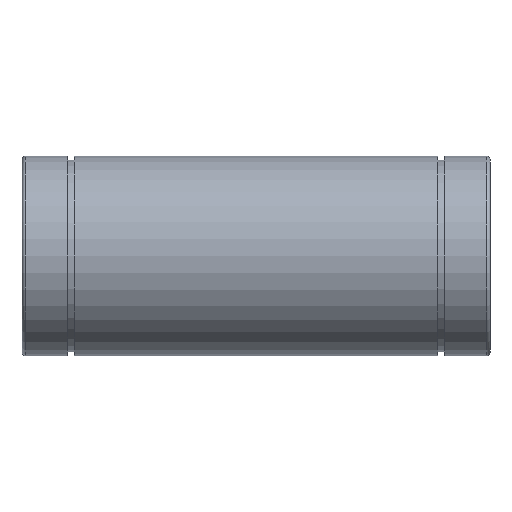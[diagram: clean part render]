
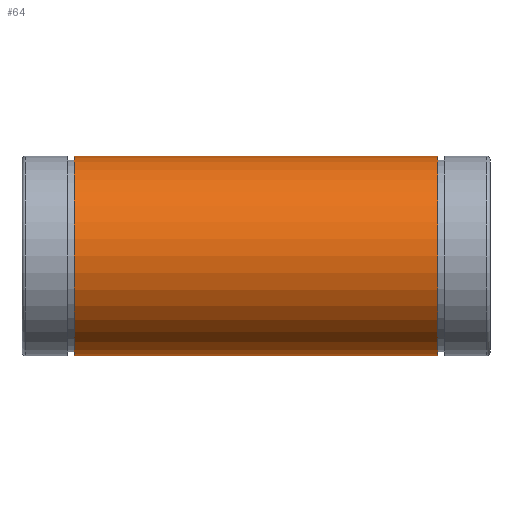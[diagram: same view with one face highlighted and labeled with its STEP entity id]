
A CAD part, front view. The second image highlights one B-rep face of the part: STEP entity #64.
In plain terms, the highlighted cylindrical face has radius 45 mm (diameter 90 mm), a full revolution.
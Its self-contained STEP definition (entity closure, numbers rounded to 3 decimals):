
#64 = ADVANCED_FACE( '', ( #139, #140 ), #141, .T. );
#139 = FACE_OUTER_BOUND( '', #218, .T. );
#140 = FACE_OUTER_BOUND( '', #219, .T. );
#141 = CYLINDRICAL_SURFACE( '', #220, 45. );
#218 = EDGE_LOOP( '', ( #313 ) );
#219 = EDGE_LOOP( '', ( #314 ) );
#220 = AXIS2_PLACEMENT_3D( '', #315, #316, #317 );
#313 = ORIENTED_EDGE( '', *, *, #356, .F. );
#314 = ORIENTED_EDGE( '', *, *, #361, .T. );
#315 = CARTESIAN_POINT( '', ( 105.5, 0., 0. ) );
#316 = DIRECTION( '', ( -1., 0., 0. ) );
#317 = DIRECTION( '', ( 0., 1., 0. ) );
#356 = EDGE_CURVE( '', #393, #393, #394, .T. );
#361 = EDGE_CURVE( '', #401, #401, #402, .T. );
#393 = VERTEX_POINT( '', #447 );
#394 = CIRCLE( '', #448, 45. );
#401 = VERTEX_POINT( '', #455 );
#402 = CIRCLE( '', #456, 45. );
#447 = CARTESIAN_POINT( '', ( 23.65, 45., 0. ) );
#448 = AXIS2_PLACEMENT_3D( '', #501, #502, #503 );
#455 = CARTESIAN_POINT( '', ( 187.35, 45., 0. ) );
#456 = AXIS2_PLACEMENT_3D( '', #510, #511, #512 );
#501 = CARTESIAN_POINT( '', ( 23.65, 0., 0. ) );
#502 = DIRECTION( '', ( -1., 0., 0. ) );
#503 = DIRECTION( '', ( 0., 1., 0. ) );
#510 = CARTESIAN_POINT( '', ( 187.35, 0., 0. ) );
#511 = DIRECTION( '', ( -1., 0., 0. ) );
#512 = DIRECTION( '', ( 0., 1., 0. ) );
